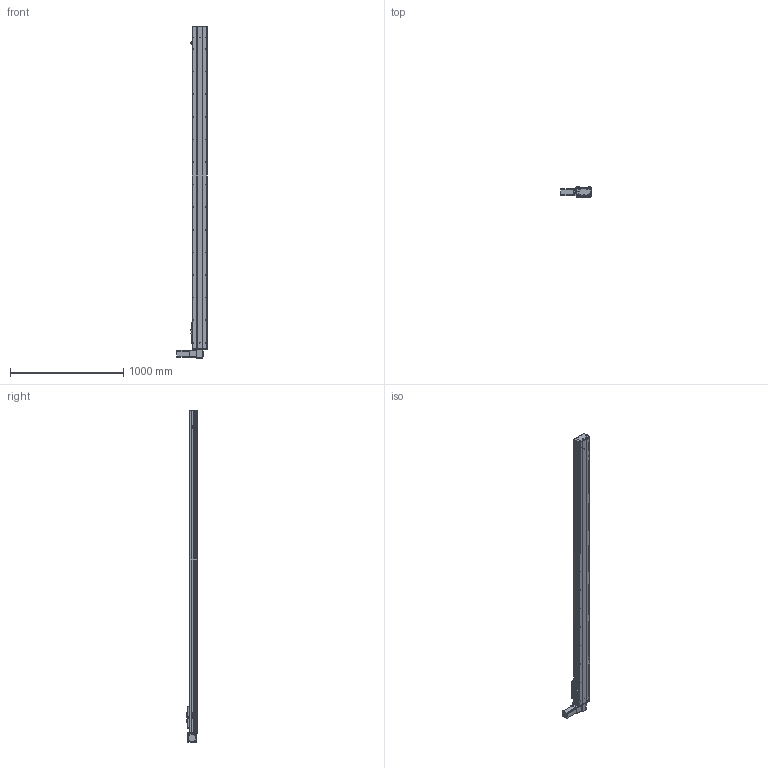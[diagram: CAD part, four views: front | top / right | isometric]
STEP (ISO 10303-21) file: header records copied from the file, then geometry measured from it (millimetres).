
FILE_DESCRIPTION (( 'STEP AP203' ), '1' );
FILE_NAME ('Y135CB-D90-S2550-BD-P400W.STEP', '2020-02-19T06:16:02', ( '微软用户' ), ( '微软中国' ), 'SwSTEP 2.0', 'SolidWorks 2017', '' );
FILE_SCHEMA (( 'CONFIG_CONTROL_DESIGN' ));
Length unit declared in the file: millimetre
Products named in the file (16): C-雄赽釱--; Y10B--々湍喘謫眊--666; san松下电机400不带刹车----; 0B-源倛裔啣; 0B-薊粣ん眊; 5CB --掛极耜裔啣-; Y135CB-D90-S2550-BD-P400W; C-詩湍揤踡え-陔; Y135CB-耜裔; 135CB--詩湍-CE; 135CB---遴掛极.-; Y100-135俋离換覜ん--; 35CB---喘謫眊楊擘啣; Y135C-陔俋离換覜結え-; 0B-埴倛裔啣; 5C--俋欶
Assembly tree (19 placements, depth 2):
  Y135CB-D90-S2550-BD-P400W
    Y135CB-耜裔
    135CB---遴掛极.-
    35CB---喘謫眊楊擘啣
    0B-埴倛裔啣
    0B-源倛裔啣
    san松下电机400不带刹车----
    5CB --掛极耜裔啣-  x2
    C-詩湍揤踡え-陔  x2
    135CB--詩湍-CE
    Y100-135俋离換覜ん--  x3
    Y135C-陔俋离換覜結え-
    5C--俋欶
    C-雄赽釱--
    Y10B--々湍喘謫眊--666
    0B-薊粣ん眊
Bounding box: 272 x 91 x 2938 mm (x, y, z)
Volume: 8411947.9 mm3; surface area: 3288432.8 mm2
Topology: 19 solids, 19 shells, 887 faces, 2410 edges, 1596 vertices
Faces by surface type: cylinder 456, plane 415, cone 16
Entity records: 27622 total; most frequent: DIRECTION 4606, CARTESIAN_POINT 4599, ORIENTED_EDGE 4296, EDGE_CURVE 2148, AXIS2_PLACEMENT_3D 1699, VERTEX_POINT 1424, LINE 1208, VECTOR 1208
